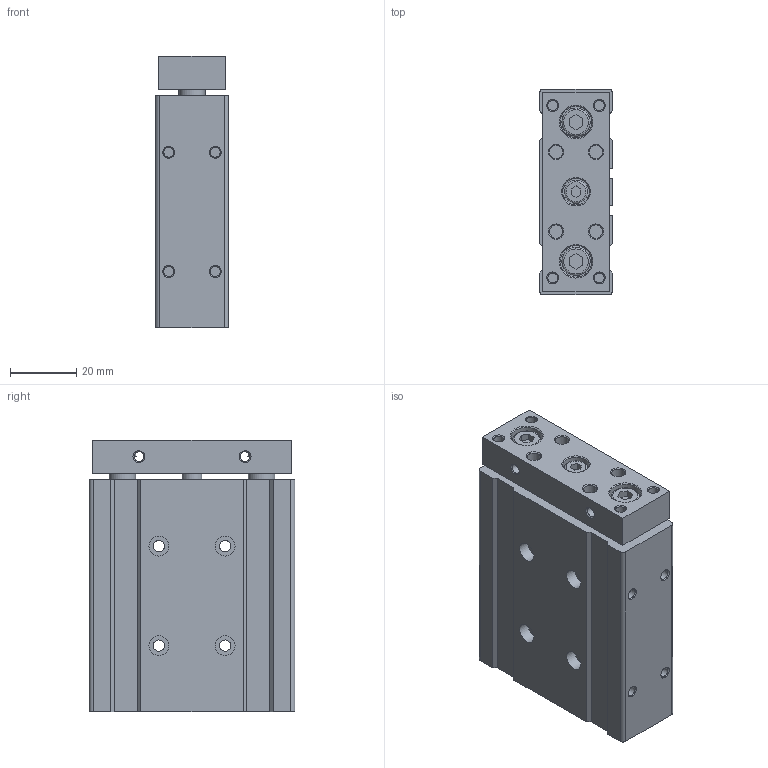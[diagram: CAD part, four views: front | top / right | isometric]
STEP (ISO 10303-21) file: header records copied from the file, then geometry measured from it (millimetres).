
FILE_DESCRIPTION((''),'2;1');
FILE_NAME('I:\3D電子目錄\氣缸\TB(U)\TB(U)10\TB(U)10\TB(U)10x25.stp','2007-08-06T08:09:19',('Administrator'),(''),'Autodesk Inventor 2008','Autodesk Inventor 2008','');
FILE_SCHEMA(('AUTOMOTIVE_DESIGN { 1 0 10303 214 1 1 1 1 }'));
Length unit declared in the file: millimetre
Products named in the file (1): TB(U)10X25
Bounding box: 22 x 62 x 82 mm (x, y, z)
Volume: 97963 mm3; surface area: 24221.3 mm2
Topology: 1 solids, 1 shells, 188 faces, 430 edges, 274 vertices
Faces by surface type: plane 90, cylinder 52, cone 35, bspline 8, torus 3
Full cylindrical faces by diameter (mm): 3 x10, 3.4 x4, 4 x8, 5 x2, 6 x5, 7 x1, 8 x5, 8.5 x2, 9.5 x2, 11 x1, 15 x2
Entity records: 5190 total; most frequent: CARTESIAN_POINT 1143, DIRECTION 842, ORIENTED_EDGE 676, EDGE_CURVE 338, EDGE_LOOP 338, AXIS2_PLACEMENT_3D 333, VERTEX_POINT 266, FACE_OUTER_BOUND 188
